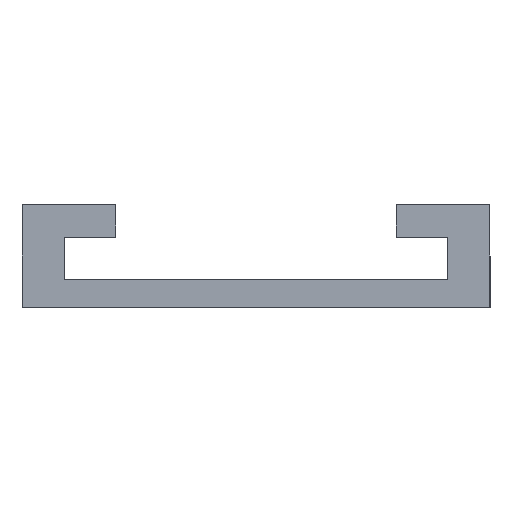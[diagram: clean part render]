
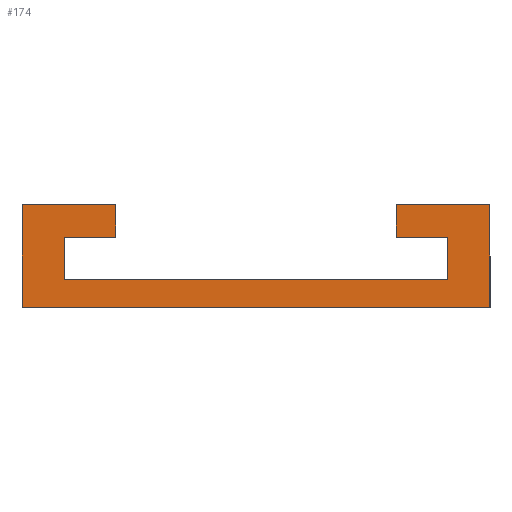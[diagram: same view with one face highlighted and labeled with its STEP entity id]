
A CAD part, left-side view. The second image highlights one B-rep face of the part: STEP entity #174.
In plain terms, the highlighted planar face has unit normal (-1, 0, 0).
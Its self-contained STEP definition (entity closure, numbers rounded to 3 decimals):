
#4 = VERTEX_POINT ( 'NONE', #189 ) ;
#5 = CARTESIAN_POINT ( 'NONE',  ( 0., 25., 0. ) ) ;
#12 = VECTOR ( 'NONE', #320, 1000. ) ;
#21 = VECTOR ( 'NONE', #175, 1000. ) ;
#24 = VECTOR ( 'NONE', #200, 1000. ) ;
#36 = LINE ( 'NONE', #327, #439 ) ;
#38 = CARTESIAN_POINT ( 'NONE',  ( 0., -20.5, 3. ) ) ;
#39 = DIRECTION ( 'NONE',  ( 0., 0., -1. ) ) ;
#45 = ORIENTED_EDGE ( 'NONE', *, *, #51, .F. ) ;
#51 = EDGE_CURVE ( 'NONE', #123, #333, #112, .T. ) ;
#53 = CARTESIAN_POINT ( 'NONE',  ( 0., -25., 11. ) ) ;
#81 = CARTESIAN_POINT ( 'NONE',  ( 0., 0., 0. ) ) ;
#84 = CARTESIAN_POINT ( 'NONE',  ( 0., 20.5, 3. ) ) ;
#86 = VECTOR ( 'NONE', #277, 1000. ) ;
#89 = DIRECTION ( 'NONE',  ( 0., -1., 0. ) ) ;
#95 = ORIENTED_EDGE ( 'NONE', *, *, #353, .F. ) ;
#96 = LINE ( 'NONE', #373, #12 ) ;
#100 = ORIENTED_EDGE ( 'NONE', *, *, #425, .F. ) ;
#103 = VECTOR ( 'NONE', #310, 1000. ) ;
#107 = LINE ( 'NONE', #84, #292 ) ;
#108 = ORIENTED_EDGE ( 'NONE', *, *, #115, .F. ) ;
#112 = LINE ( 'NONE', #223, #103 ) ;
#115 = EDGE_CURVE ( 'NONE', #207, #471, #434, .T. ) ;
#119 = ORIENTED_EDGE ( 'NONE', *, *, #336, .F. ) ;
#122 = VERTEX_POINT ( 'NONE', #450 ) ;
#123 = VERTEX_POINT ( 'NONE', #420 ) ;
#124 = CARTESIAN_POINT ( 'NONE',  ( 0., 15., 7.5 ) ) ;
#131 = VECTOR ( 'NONE', #406, 1000. ) ;
#133 = LINE ( 'NONE', #321, #24 ) ;
#135 = CARTESIAN_POINT ( 'NONE',  ( 0., -15., 7.5 ) ) ;
#137 = ORIENTED_EDGE ( 'NONE', *, *, #281, .F. ) ;
#139 = VERTEX_POINT ( 'NONE', #361 ) ;
#153 = LINE ( 'NONE', #124, #86 ) ;
#154 = EDGE_CURVE ( 'NONE', #419, #122, #153, .T. ) ;
#157 = VERTEX_POINT ( 'NONE', #316 ) ;
#162 = ORIENTED_EDGE ( 'NONE', *, *, #275, .F. ) ;
#163 = CARTESIAN_POINT ( 'NONE',  ( 0., -15., 11. ) ) ;
#174 = ADVANCED_FACE ( 'NONE', ( #422 ), #235, .F. ) ;
#175 = DIRECTION ( 'NONE',  ( 0., 0., -1. ) ) ;
#183 = VECTOR ( 'NONE', #429, 1000. ) ;
#186 = ORIENTED_EDGE ( 'NONE', *, *, #451, .F. ) ;
#189 = CARTESIAN_POINT ( 'NONE',  ( 0., 15., 11. ) ) ;
#190 = CARTESIAN_POINT ( 'NONE',  ( 0., 20.5, 3. ) ) ;
#200 = DIRECTION ( 'NONE',  ( 0., -1., 0. ) ) ;
#203 = CARTESIAN_POINT ( 'NONE',  ( 0., 15., 7.5 ) ) ;
#207 = VERTEX_POINT ( 'NONE', #38 ) ;
#215 = DIRECTION ( 'NONE',  ( 0., 0., 1. ) ) ;
#223 = CARTESIAN_POINT ( 'NONE',  ( 0., -25., 0. ) ) ;
#225 = LINE ( 'NONE', #279, #407 ) ;
#235 = PLANE ( 'NONE',  #306 ) ;
#238 = LINE ( 'NONE', #441, #21 ) ;
#245 = ORIENTED_EDGE ( 'NONE', *, *, #154, .F. ) ;
#246 = CARTESIAN_POINT ( 'NONE',  ( 0., 25., 0. ) ) ;
#248 = ORIENTED_EDGE ( 'NONE', *, *, #479, .F. ) ;
#261 = VERTEX_POINT ( 'NONE', #190 ) ;
#274 = EDGE_CURVE ( 'NONE', #139, #393, #298, .T. ) ;
#275 = EDGE_CURVE ( 'NONE', #333, #157, #394, .T. ) ;
#277 = DIRECTION ( 'NONE',  ( 0., 1., 0. ) ) ;
#279 = CARTESIAN_POINT ( 'NONE',  ( 0., 15., 11. ) ) ;
#281 = EDGE_CURVE ( 'NONE', #4, #419, #225, .T. ) ;
#283 = DIRECTION ( 'NONE',  ( 0., 0., 1. ) ) ;
#292 = VECTOR ( 'NONE', #89, 1000. ) ;
#298 = LINE ( 'NONE', #163, #183 ) ;
#306 = AXIS2_PLACEMENT_3D ( 'NONE', #81, #467, #426 ) ;
#310 = DIRECTION ( 'NONE',  ( 0., 1., 0. ) ) ;
#313 = VECTOR ( 'NONE', #470, 1000. ) ;
#314 = ORIENTED_EDGE ( 'NONE', *, *, #415, .F. ) ;
#316 = CARTESIAN_POINT ( 'NONE',  ( 0., 25., 11. ) ) ;
#320 = DIRECTION ( 'NONE',  ( 0., 1., 0. ) ) ;
#321 = CARTESIAN_POINT ( 'NONE',  ( 0., 25., 11. ) ) ;
#323 = CARTESIAN_POINT ( 'NONE',  ( 0., -25., 11. ) ) ;
#327 = CARTESIAN_POINT ( 'NONE',  ( 0., -15., 7.5 ) ) ;
#333 = VERTEX_POINT ( 'NONE', #246 ) ;
#336 = EDGE_CURVE ( 'NONE', #471, #409, #96, .T. ) ;
#343 = CARTESIAN_POINT ( 'NONE',  ( 0., -20.5, 3. ) ) ;
#353 = EDGE_CURVE ( 'NONE', #261, #207, #107, .T. ) ;
#361 = CARTESIAN_POINT ( 'NONE',  ( 0., -15., 11. ) ) ;
#373 = CARTESIAN_POINT ( 'NONE',  ( 0., -20.5, 7.5 ) ) ;
#379 = EDGE_LOOP ( 'NONE', ( #162, #45, #186, #453, #314, #119, #108, #95, #248, #245, #137, #100 ) ) ;
#393 = VERTEX_POINT ( 'NONE', #53 ) ;
#394 = LINE ( 'NONE', #5, #313 ) ;
#406 = DIRECTION ( 'NONE',  ( 0., 0., -1. ) ) ;
#407 = VECTOR ( 'NONE', #39, 1000. ) ;
#409 = VERTEX_POINT ( 'NONE', #135 ) ;
#413 = VECTOR ( 'NONE', #215, 1000. ) ;
#415 = EDGE_CURVE ( 'NONE', #409, #139, #36, .T. ) ;
#419 = VERTEX_POINT ( 'NONE', #203 ) ;
#420 = CARTESIAN_POINT ( 'NONE',  ( 0., -25., 0. ) ) ;
#422 = FACE_OUTER_BOUND ( 'NONE', #379, .T. ) ;
#425 = EDGE_CURVE ( 'NONE', #157, #4, #133, .T. ) ;
#426 = DIRECTION ( 'NONE',  ( 0., 0., -1. ) ) ;
#429 = DIRECTION ( 'NONE',  ( 0., -1., 0. ) ) ;
#434 = LINE ( 'NONE', #343, #413 ) ;
#439 = VECTOR ( 'NONE', #283, 1000. ) ;
#441 = CARTESIAN_POINT ( 'NONE',  ( 0., 20.5, 7.5 ) ) ;
#450 = CARTESIAN_POINT ( 'NONE',  ( 0., 20.5, 7.5 ) ) ;
#451 = EDGE_CURVE ( 'NONE', #393, #123, #486, .T. ) ;
#453 = ORIENTED_EDGE ( 'NONE', *, *, #274, .F. ) ;
#467 = DIRECTION ( 'NONE',  ( 1., 0., 0. ) ) ;
#470 = DIRECTION ( 'NONE',  ( 0., 0., 1. ) ) ;
#471 = VERTEX_POINT ( 'NONE', #484 ) ;
#479 = EDGE_CURVE ( 'NONE', #122, #261, #238, .T. ) ;
#484 = CARTESIAN_POINT ( 'NONE',  ( 0., -20.5, 7.5 ) ) ;
#486 = LINE ( 'NONE', #323, #131 ) ;
